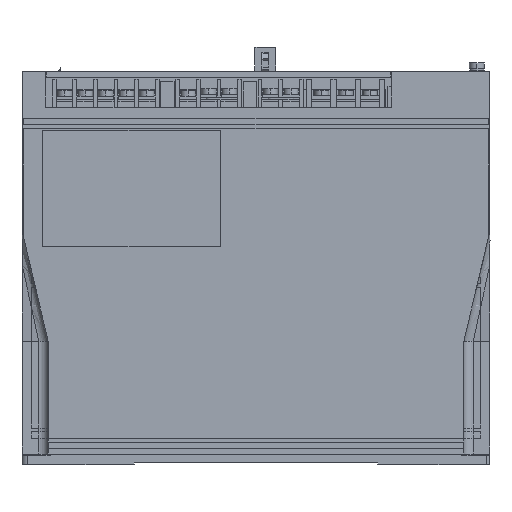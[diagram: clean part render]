
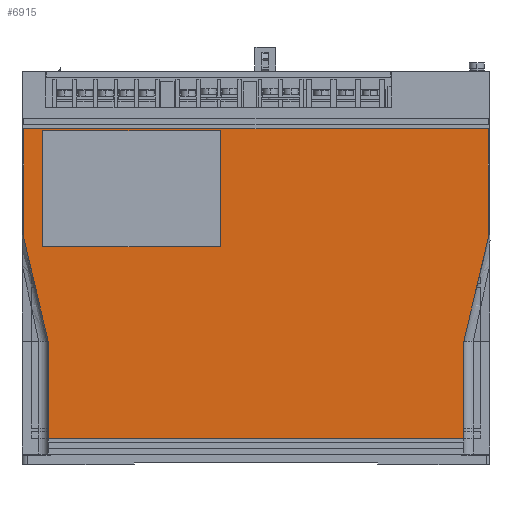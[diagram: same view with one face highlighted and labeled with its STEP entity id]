
A CAD part, left-side view. The second image highlights one B-rep face of the part: STEP entity #6915.
In plain terms, the highlighted planar face has unit normal (-1, 0, 0).
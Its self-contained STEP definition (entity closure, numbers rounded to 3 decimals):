
#2933 = VERTEX_POINT ( 'NONE', #29631 ) ;
#2935 = EDGE_CURVE ( 'NONE', #2936, #2933, #29630, .T. ) ;
#2936 = VERTEX_POINT ( 'NONE', #29626 ) ;
#3014 = VERTEX_POINT ( 'NONE', #29814 ) ;
#3016 = EDGE_CURVE ( 'NONE', #3014, #3017, #29813, .T. ) ;
#3017 = VERTEX_POINT ( 'NONE', #29809 ) ;
#4439 = EDGE_CURVE ( 'NONE', #4440, #2936, #32499, .T. ) ;
#4440 = VERTEX_POINT ( 'NONE', #32492 ) ;
#4469 = VERTEX_POINT ( 'NONE', #32573 ) ;
#4471 = EDGE_CURVE ( 'NONE', #3014, #4469, #32568, .T. ) ;
#6868 = EDGE_CURVE ( 'NONE', #2933, #3017, #39708, .T. ) ;
#6898 = EDGE_CURVE ( 'NONE', #6899, #6923, #39760, .T. ) ;
#6899 = VERTEX_POINT ( 'NONE', #39754 ) ;
#6900 = ORIENTED_EDGE ( 'NONE', *, *, #6901, .F. ) ;
#6901 = EDGE_CURVE ( 'NONE', #6920, #6899, #39749, .T. ) ;
#6902 = EDGE_LOOP ( 'NONE', ( #6903, #6904, #6905, #6906, #6907, #6908, #6967, #6968 ) ) ;
#6903 = ORIENTED_EDGE ( 'NONE', *, *, #2935, .T. ) ;
#6904 = ORIENTED_EDGE ( 'NONE', *, *, #6868, .T. ) ;
#6905 = ORIENTED_EDGE ( 'NONE', *, *, #3016, .F. ) ;
#6906 = ORIENTED_EDGE ( 'NONE', *, *, #4471, .T. ) ;
#6907 = ORIENTED_EDGE ( 'NONE', *, *, #6913, .T. ) ;
#6908 = ORIENTED_EDGE ( 'NONE', *, *, #6909, .T. ) ;
#6909 = EDGE_CURVE ( 'NONE', #6911, #6929, #39741, .T. ) ;
#6911 = VERTEX_POINT ( 'NONE', #31674 ) ;
#6913 = EDGE_CURVE ( 'NONE', #4469, #6911, #31670, .T. ) ;
#6915 = ADVANCED_FACE ( 'NONE', ( #31664, #31663 ), #31658, .T. ) ;
#6916 = EDGE_LOOP ( 'NONE', ( #6917, #6921, #6924, #6900 ) ) ;
#6917 = ORIENTED_EDGE ( 'NONE', *, *, #6918, .F. ) ;
#6918 = EDGE_CURVE ( 'NONE', #6919, #6920, #31649, .T. ) ;
#6919 = VERTEX_POINT ( 'NONE', #31643 ) ;
#6920 = VERTEX_POINT ( 'NONE', #31641 ) ;
#6921 = ORIENTED_EDGE ( 'NONE', *, *, #6922, .F. ) ;
#6922 = EDGE_CURVE ( 'NONE', #6923, #6919, #31636, .T. ) ;
#6923 = VERTEX_POINT ( 'NONE', #31631 ) ;
#6924 = ORIENTED_EDGE ( 'NONE', *, *, #6898, .F. ) ;
#6928 = EDGE_CURVE ( 'NONE', #6929, #4440, #31616, .T. ) ;
#6929 = VERTEX_POINT ( 'NONE', #31740 ) ;
#6967 = ORIENTED_EDGE ( 'NONE', *, *, #6928, .T. ) ;
#6968 = ORIENTED_EDGE ( 'NONE', *, *, #4439, .T. ) ;
#29626 = CARTESIAN_POINT ( 'NONE',  ( -4.7, -8., 66. ) ) ;
#29627 = DIRECTION ( 'NONE',  ( 0., 0., -1. ) ) ;
#29628 = VECTOR ( 'NONE', #29627, 1000. ) ;
#29629 = CARTESIAN_POINT ( 'NONE',  ( -4.7, -8., 66. ) ) ;
#29630 = LINE ( 'NONE', #29629, #29628 ) ;
#29631 = CARTESIAN_POINT ( 'NONE',  ( -4.7, -8., 14.1 ) ) ;
#29809 = CARTESIAN_POINT ( 'NONE',  ( -4.7, -230., 14.1 ) ) ;
#29810 = DIRECTION ( 'NONE',  ( 0., 0., -1. ) ) ;
#29811 = VECTOR ( 'NONE', #29810, 1000. ) ;
#29812 = CARTESIAN_POINT ( 'NONE',  ( -4.7, -230., 66. ) ) ;
#29813 = LINE ( 'NONE', #29812, #29811 ) ;
#29814 = CARTESIAN_POINT ( 'NONE',  ( -4.7, -230., 66. ) ) ;
#31610 = DIRECTION ( 'NONE',  ( 0., 0., -1. ) ) ;
#31612 = VECTOR ( 'NONE', #31610, 1000. ) ;
#31614 = CARTESIAN_POINT ( 'NONE',  ( -4.7, 5., 14.1 ) ) ;
#31616 = LINE ( 'NONE', #31614, #31612 ) ;
#31631 = CARTESIAN_POINT ( 'NONE',  ( -4.7, -5., 178.5 ) ) ;
#31632 = DIRECTION ( 'NONE',  ( 0., 0., -1. ) ) ;
#31633 = VECTOR ( 'NONE', #31632, 1000. ) ;
#31634 = CARTESIAN_POINT ( 'NONE',  ( -4.7, -5., 179.5 ) ) ;
#31636 = LINE ( 'NONE', #31634, #31633 ) ;
#31641 = CARTESIAN_POINT ( 'NONE',  ( -4.7, -100., 116.5 ) ) ;
#31643 = CARTESIAN_POINT ( 'NONE',  ( -4.7, -5., 116.5 ) ) ;
#31644 = DIRECTION ( 'NONE',  ( 0., -1., 0. ) ) ;
#31645 = VECTOR ( 'NONE', #31644, 1000. ) ;
#31647 = CARTESIAN_POINT ( 'NONE',  ( -4.7, 5., 116.5 ) ) ;
#31649 = LINE ( 'NONE', #31647, #31645 ) ;
#31652 = DIRECTION ( 'NONE',  ( 0., -1., 0. ) ) ;
#31653 = DIRECTION ( 'NONE',  ( -1., 0., 0. ) ) ;
#31655 = CARTESIAN_POINT ( 'NONE',  ( -4.7, 5., 179.5 ) ) ;
#31656 = AXIS2_PLACEMENT_3D ( 'NONE', #31655, #31653, #31652 ) ;
#31658 = PLANE ( 'NONE',  #31656 ) ;
#31663 = FACE_OUTER_BOUND ( 'NONE', #6902, .T. ) ;
#31664 = FACE_BOUND ( 'NONE', #6916, .T. ) ;
#31665 = DIRECTION ( 'NONE',  ( 0., 0., 1. ) ) ;
#31666 = VECTOR ( 'NONE', #31665, 1000. ) ;
#31668 = CARTESIAN_POINT ( 'NONE',  ( -4.7, -243., 14.1 ) ) ;
#31670 = LINE ( 'NONE', #31668, #31666 ) ;
#31674 = CARTESIAN_POINT ( 'NONE',  ( -4.7, -243., 179.5 ) ) ;
#31740 = CARTESIAN_POINT ( 'NONE',  ( -4.7, 5., 179.5 ) ) ;
#32492 = CARTESIAN_POINT ( 'NONE',  ( -4.7, 5., 120.786 ) ) ;
#32494 = DIRECTION ( 'NONE',  ( 0., -0.231, -0.973 ) ) ;
#32496 = VECTOR ( 'NONE', #32494, 1000. ) ;
#32498 = CARTESIAN_POINT ( 'NONE',  ( -4.7, 6., 125. ) ) ;
#32499 = LINE ( 'NONE', #32498, #32496 ) ;
#32565 = VECTOR ( 'NONE', #32677, 1000. ) ;
#32567 = CARTESIAN_POINT ( 'NONE',  ( -4.7, -244., 125. ) ) ;
#32568 = LINE ( 'NONE', #32567, #32565 ) ;
#32573 = CARTESIAN_POINT ( 'NONE',  ( -4.7, -243., 120.786 ) ) ;
#32677 = DIRECTION ( 'NONE',  ( 0., -0.231, 0.973 ) ) ;
#39704 = DIRECTION ( 'NONE',  ( 0., -1., 0. ) ) ;
#39705 = VECTOR ( 'NONE', #39704, 1000. ) ;
#39706 = CARTESIAN_POINT ( 'NONE',  ( -4.7, 5., 14.1 ) ) ;
#39708 = LINE ( 'NONE', #39706, #39705 ) ;
#39737 = DIRECTION ( 'NONE',  ( 0., 1., 0. ) ) ;
#39738 = VECTOR ( 'NONE', #39737, 1000. ) ;
#39740 = CARTESIAN_POINT ( 'NONE',  ( -4.7, 5., 179.5 ) ) ;
#39741 = LINE ( 'NONE', #39740, #39738 ) ;
#39746 = DIRECTION ( 'NONE',  ( 0., 0., 1. ) ) ;
#39747 = VECTOR ( 'NONE', #39746, 1000. ) ;
#39748 = CARTESIAN_POINT ( 'NONE',  ( -4.7, -100., 179.5 ) ) ;
#39749 = LINE ( 'NONE', #39748, #39747 ) ;
#39754 = CARTESIAN_POINT ( 'NONE',  ( -4.7, -100., 178.5 ) ) ;
#39755 = DIRECTION ( 'NONE',  ( 0., 1., 0. ) ) ;
#39756 = VECTOR ( 'NONE', #39755, 1000. ) ;
#39759 = CARTESIAN_POINT ( 'NONE',  ( -4.7, 5., 178.5 ) ) ;
#39760 = LINE ( 'NONE', #39759, #39756 ) ;
